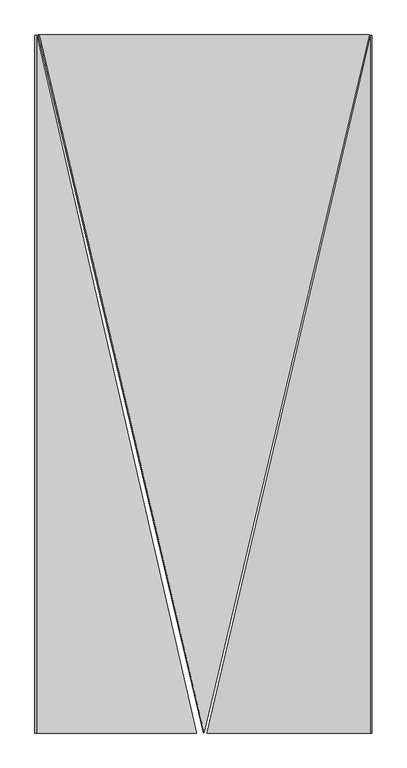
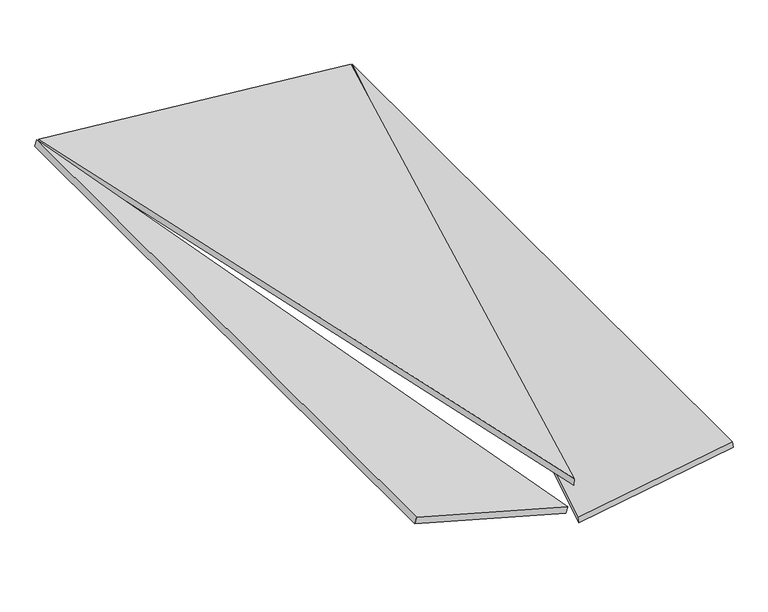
"""IFC4 building model written with IfcOpenShell, lengths in millimetres: proxy geometry, panel sufitowy 6 : panel sufitowy 6."""

from ifc_helpers import new_model, si_unit, frame, origin, place, context, project, spatial, polyline, outline, extrude, source, transform, mapped, element, save


def generic_models_ae4b16b1(model_context):
    return source(origin(), model_context, "Body", "SweptSolid", [
        extrude(outline(polyline([(-900.9098917, 0.0), (1235.4098448, 0.0), (1006.1909889, -962.7191946), (-900.9098917, 0.0)])), frame((547.1538959, -1457.4151922, 1131.8853671), z_axis=(0.09584575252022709, 0.0, 0.9953961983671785), x_axis=(-0.2305541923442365, 0.9728062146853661, 0.022199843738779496)), (0.0, 0.0, 1.0), 20.0),
        extrude(outline(polyline([(-127.5, 0.0), (-622.5, 0.0), (-127.5, 2079.0), (-127.5, 0.0)])), frame((1383.0106901, -2335.0, 1084.5535657), z_axis=(-0.1650476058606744, 0.0, 0.986285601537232), x_axis=(0.986285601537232, 0.0, 0.1650476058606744)), (0.0, 0.0, 1.0), 20.0),
        extrude(outline(polyline([(-127.5, 0.0), (-127.5, -2079.0), (-622.5000001, 0.0), (-127.5, 0.0)])), frame((129.0462327, -2335.0, 1194.387099), z_axis=(0.2672383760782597, 0.0, 0.9636304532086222), x_axis=(-0.9636304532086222, 0.0, 0.2672383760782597)), (0.0, 0.0, 1.0), 20.0),
    ])


if __name__ == "__main__":
    model = new_model("IFC4")
    model_context = context("Model", 3, world=origin())
    ifc_project = project(units=[si_unit("LENGTHUNIT", "METRE", prefix="MILLI")], contexts=[model_context])
    site = spatial("IfcSite", under=ifc_project)
    building = spatial("IfcBuilding", under=site)
    placement = place(None, origin())
    generic_models_shape = generic_models_ae4b16b1(model_context)
    element("IfcBuildingElementProxy", 1, Name="panel sufitowy 6 : panel sufitowy 6", ObjectType="panel sufitowy 6 : panel sufitowy 6", at=placement, inside=building, context=model_context, shape_type="MappedRepresentation", body=[
        mapped(generic_models_shape, transform((0.0, 0.0, 0.0), x_axis=(1.0, 0.0, 0.0), y_axis=(0.0, 1.0, 0.0), z_axis=(0.0, 0.0, 1.0))),
    ])
    save(model, "model.ifc")
